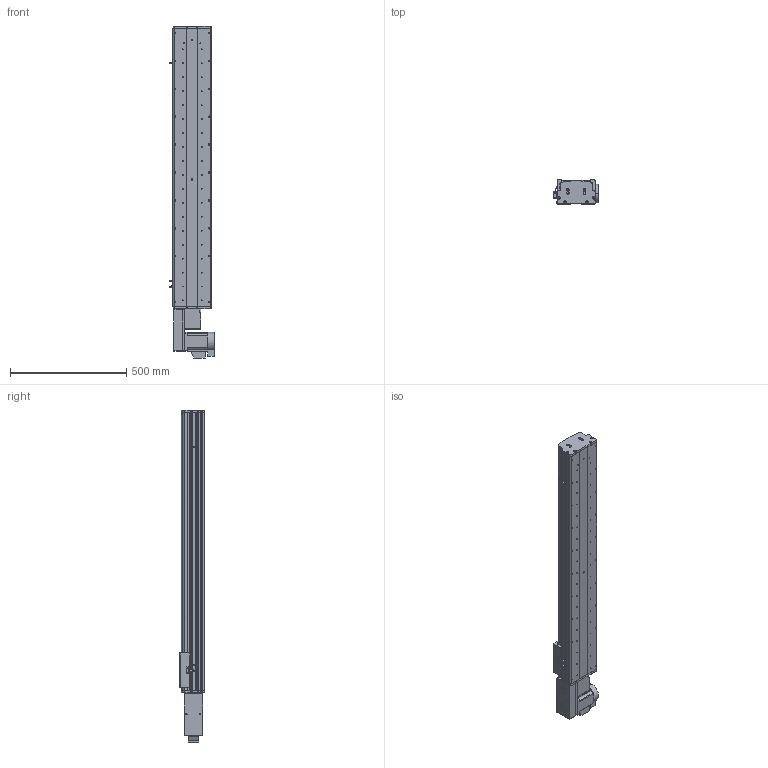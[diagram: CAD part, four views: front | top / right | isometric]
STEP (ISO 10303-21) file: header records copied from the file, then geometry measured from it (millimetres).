
FILE_DESCRIPTION (( 'STEP AP214' ), '1' );
FILE_NAME ('KSD165B-S950-MLB-CM .STEP', '2017-10-16T06:15:42', ( '微软用户' ), ( '微软中国' ), 'SwSTEP 2.0', 'SolidWorks 2014', '' );
FILE_SCHEMA (( 'AUTOMOTIVE_DESIGN' ));
Length unit declared in the file: millimetre
Products named in the file (17): KSD165B-S950-MLB-CM ; HTPA26S5M250-A-H8 750W萇儂蚚; HTPA26S5M250-A-H8 400W萇儂蚚 ; 130宽模组马达安装板连板左右折同步带; 130宽模组保护罩上下左右折-同步带; 165宽马达安装板同步带左-改; KSD165模组-同步带防尘盖1-950行程-最新版; KSD165模组同步带底板-950行程-最新; 拸秶雄ん750W侜督萇儂; U倰嫖萇假蚾璃; U倰嫖萇EEㄜSX672; 覜茼え68遵圉猾敕; KSD165模组-同步带-防撞垫2; KSD165模组同步带-防撞垫1; KSD165耀郪-ヶ傷啣1-肮祭湍; KSD165模组-后端板1-同步带; KSD165模组-同步带滑动座-最新版
Assembly tree (20 placements, depth 2):
  KSD165B-S950-MLB-CM 
    KSD165模组-同步带滑动座-最新版
    KSD165模组-后端板1-同步带
    KSD165耀郪-ヶ傷啣1-肮祭湍
    KSD165模组同步带-防撞垫1
    KSD165模组-同步带-防撞垫2
    覜茼え68遵圉猾敕
    U倰嫖萇EEㄜSX672  x3
    U倰嫖萇假蚾璃  x3
    拸秶雄ん750W侜督萇儂
    KSD165模组同步带底板-950行程-最新
    KSD165模组-同步带防尘盖1-950行程-最新版
    165宽马达安装板同步带左-改
    130宽模组保护罩上下左右折-同步带
    130宽模组马达安装板连板左右折同步带
    HTPA26S5M250-A-H8 400W萇儂蚚 
    HTPA26S5M250-A-H8 750W萇儂蚚
Bounding box: 191.2 x 104 x 1428 mm (x, y, z)
Volume: 7693654.3 mm3; surface area: 1787380 mm2
Topology: 21 solids, 22 shells, 1965 faces, 5544 edges, 3620 vertices
Faces by surface type: cylinder 1265, plane 588, cone 112
Entity records: 63816 total; most frequent: CARTESIAN_POINT 13062, DIRECTION 10488, ORIENTED_EDGE 9748, EDGE_CURVE 4874, AXIS2_PLACEMENT_3D 4116, VERTEX_POINT 3212, CIRCLE 2348, LINE 2256
